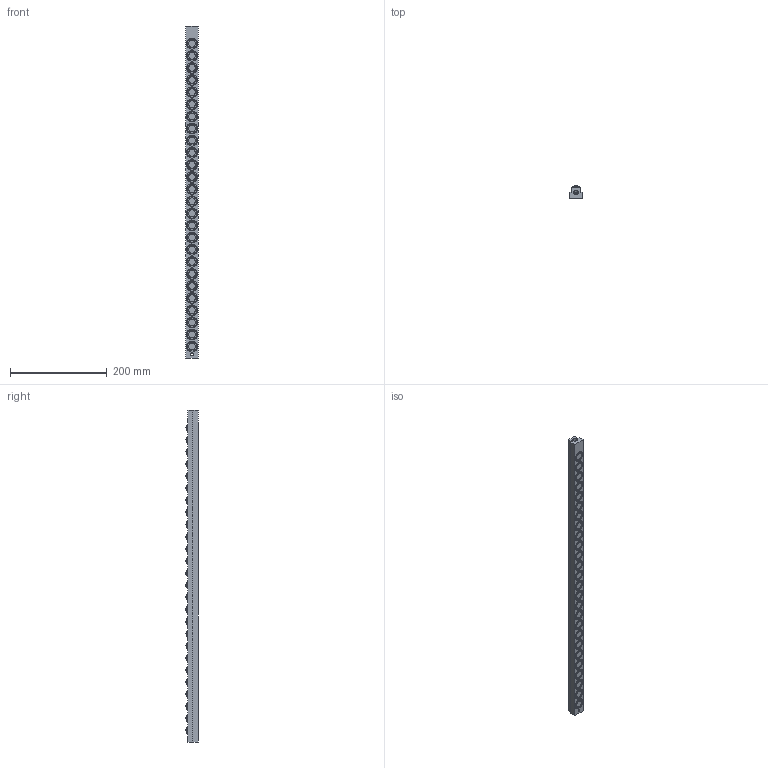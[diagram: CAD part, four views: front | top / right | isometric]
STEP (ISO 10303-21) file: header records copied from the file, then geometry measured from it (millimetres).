
FILE_DESCRIPTION (( 'STEP AP203' ), '1' );
FILE_NAME ('PVL13T-26.STEP', '2016-02-18T04:11:17', ( '' ), ( '' ), 'SwSTEP 2.0', 'SolidWorks 2013', '' );
FILE_SCHEMA (( 'CONFIG_CONTROL_DESIGN' ));
Length unit declared in the file: millimetre
Products named in the file (1): PVL13T-26
Bounding box: 25 x 26.26 x 685 mm (x, y, z)
Volume: 313516.9 mm3; surface area: 72947.7 mm2
Topology: 2 solids, 2 shells, 768 faces, 1834 edges, 1228 vertices
Faces by surface type: cylinder 426, plane 230, torus 52, sphere 52, cone 8
Entity records: 22997 total; most frequent: DIRECTION 4540, CARTESIAN_POINT 3827, ORIENTED_EDGE 3660, AXIS2_PLACEMENT_3D 1941, EDGE_CURVE 1830, VERTEX_POINT 1228, CIRCLE 1172, EDGE_LOOP 932
